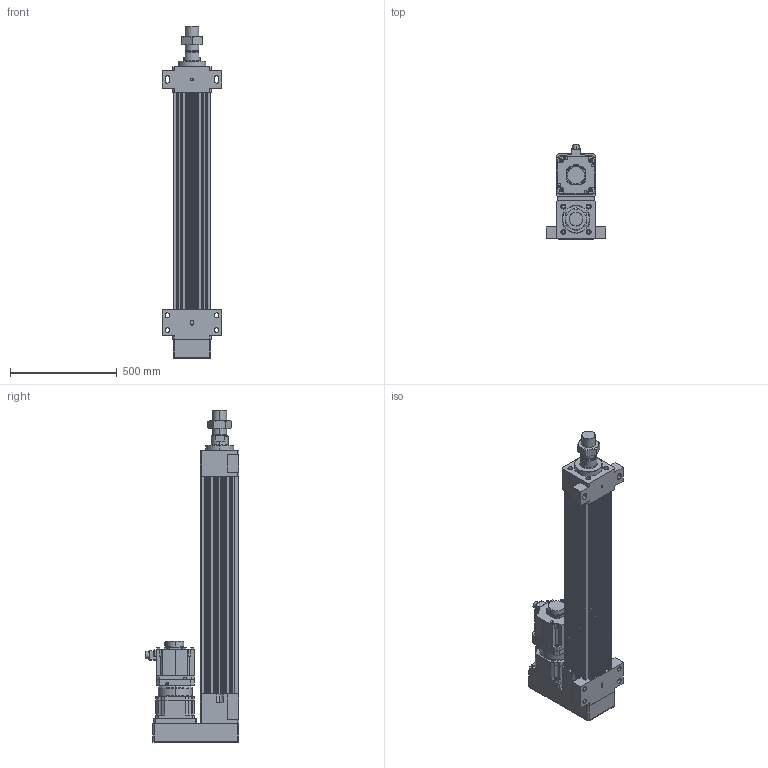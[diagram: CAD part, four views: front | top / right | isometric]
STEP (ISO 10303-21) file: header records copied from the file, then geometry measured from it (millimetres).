
FILE_DESCRIPTION (( 'STEP AP203' ), '1' );
FILE_NAME ('HES180HS-P700-W050G00-M-FFB.STEP', '2023-02-01T06:55:02', ( 'tms' ), ( '' ), 'SwSTEP 2.0', 'SolidWorks 2013', '' );
FILE_SCHEMA (( 'CONFIG_CONTROL_DESIGN' ));
Length unit declared in the file: millimetre
Products named in the file (9): AB180-003[HG-SR702B]; AB1801; HES180-P700-G180-FFB; HES180 ROD M ST700; P1301600001; HG-SR502; M64X2.0P; P0403600401; HES180HS-P700-W050G00-M-FFB
Assembly tree (8 placements, depth 3):
  HES180HS-P700-W050G00-M-FFB
    HES180-P700-G180-FFB
    HES180 ROD M ST700
    M64X2.0P
    AB180-003[HG-SR702B]
      AB1801
      P1301600001
      P0403600401
    HG-SR502
Bounding box: 280 x 438.85 x 1552 mm (x, y, z)
Volume: 33164047 mm3; surface area: 2968194.6 mm2
Topology: 4 solids, 19 shells, 1446 faces, 3761 edges, 2443 vertices
Faces by surface type: cylinder 668, plane 567, cone 144, bspline 63, torus 4
Entity records: 53114 total; most frequent: CARTESIAN_POINT 16078, DIRECTION 7777, ORIENTED_EDGE 7426, EDGE_CURVE 3737, AXIS2_PLACEMENT_3D 2922, VERTEX_POINT 2443, VECTOR 1933, LINE 1933
